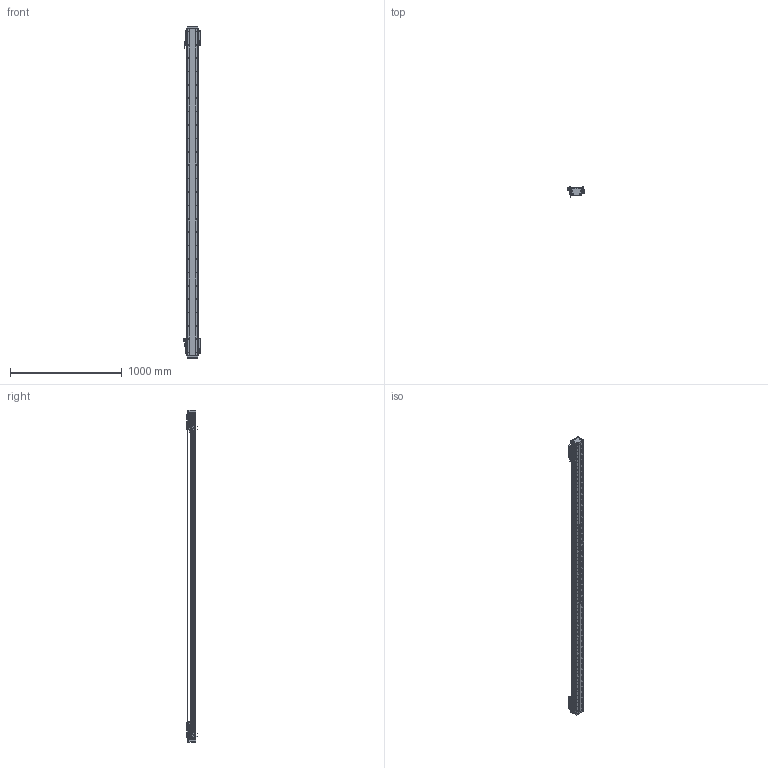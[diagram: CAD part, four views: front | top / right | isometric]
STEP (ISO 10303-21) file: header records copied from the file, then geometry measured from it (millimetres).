
FILE_DESCRIPTION (( 'STEP AP203' ), '1' );
FILE_NAME ('DA-B95-2-B15-T2600-C010-0.2 直线电机.STEP', '2023-05-06T06:41:14', ( '微软用户' ), ( '微软中国' ), 'SwSTEP 2.0', 'SolidWorks 2019', '' );
FILE_SCHEMA (( 'CONFIG_CONTROL_DESIGN' ));
Length unit declared in the file: millimetre
Products named in the file (34): 复件 66245-BU95-HT-V-01 滑动台板^66245-BU95-V-00 一体化滑动台板; PM-T45 光电开关^DA-A95-B15-T-C010-0.2-N 直线电机; 复件 DA95-HK-GT-00 滑块钢轨^66245-BU95-V-00 一体化滑动台板; LMDK-2-R001-V5-L02-C1-F00，0.2M 读数头^DA-A95-B15-T-C010-0.2-N 直线电机_DMA-010-0.2; DA-A95-GYP-00 光电感应片^DA-A95-B15-T-C010-0.2-N 直线电机; 葩璃 DA95-B15-DP-A-00 菜えA^66245-BU95-V 幗紩賑怢; 复件 DA95-B15-YB-B-00 压板B^66245-BU95-V 滚珠滑台; 复件 DA95-B15 钢带盖板^DA-A95-B15-T-C010-0.2-N 直线电机; 66245-BU95-V 幗紩賑怢; 复件 纯铜油杯 6x6mm^66245-BU95-V 滚珠滑台; 复件 复件 18252-0001-002-00 钢带垫块^DA-A95-B15-T-C010-0.2-N 直线电机; 复件 DA95-DB-00  挡板^66245-BU95-V 滚珠滑台; 葩璃 PM-Y45^DA-A95-B15-T-C010-0.2-N 眻盄萇儂; IU-BU95-L 菁釱絳寢; 复件 DKW-GYP-ZJ-00 中间光电感应片^DA-A95-B15-T-C010-0.2-N 直线电机; 葩璃 DA95-B15-DP--B-00 菜えB^66245-BU95-V 幗紩賑怢; 葩璃 BKM015-W060-C1-TP-DA-0.2^DA-A95-B15-T-C010-0.2-N 眻盄萇儂; B15 XD-U-02L ｴﾅﾕ､ｳﾟ^DA-A95-B15-T-C010-0.2-N ﾖｱﾏﾟｵ扈銈XD-U-02L; 葩璃 DA95-GT-T-00^IU-BU95-L 菁釱絳寢_DA95; 葩璃 BKMA01-W060-TRL^DA-A95-B15-T-C010-0.2-N 眻盄萇儂; DA-B95-2-B15-T2600-C010-0.2 眻盄萇儂; 复件 DA95-DK-00 挡块^66245-BU95-V 滚珠滑台; 复件 DA95-B15-YB-A-00 压板A^66245-BU95-V 滚珠滑台; 66245-BU95-V-00 珨极趙賑雄怢啣; IU-BU95-L-00 菁釱_L2940; 复件 六角薄螺母 M3^DA-A95-B15-T-C010-0.2-N 直线电机_GB_FASTENER_NUT_STNAB M3-C; DA95-HXJ-00 缓冲橡胶^DA-A95-B15-T-C010-0.2-N 直线电机; 复件 复件 18252-0001-003-00 钢带拉块^DA-A95-B15-T-C010-0.2-N 直线电机; 复件 DKW-KGZ-ZJ-00 中间光电开关支架^DA-A95-B15-T-C010-0.2-N 直线电机; 复件 复件 18252-0001-004-00 钢带端盖^DA-A95-B15-T-C010-0.2-N 直线电机; 复件 DA95-MFP-01 密封片^66245-BU95-V 滚珠滑台; 复件 DKW-HXJ-JY-00 缓冲橡胶^DA-A95-B15-T-C010-0.2-N 直线电机
Assembly tree (80 placements, depth 4):
  DA-B95-2-B15-T2600-C010-0.2 眻盄萇儂
    IU-BU95-L 菁釱絳寢
      IU-BU95-L-00 菁釱_L2940
      葩璃 DA95-GT-T-00^IU-BU95-L 菁釱絳寢_DA95  x2
    66245-BU95-V 幗紩賑怢
      66245-BU95-V-00 珨极趙賑雄怢啣
        复件 66245-BU95-HT-V-01 滑动台板^66245-BU95-V-00 一体化滑动台板
        复件 DA95-HK-GT-00 滑块钢轨^66245-BU95-V-00 一体化滑动台板  x2
      葩璃 DA95-B15-DP-A-00 菜えA^66245-BU95-V 幗紩賑怢
      复件 DA95-B15-YB-A-00 压板A^66245-BU95-V 滚珠滑台
      复件 DA95-B15-YB-B-00 压板B^66245-BU95-V 滚珠滑台
      复件 DA95-DB-00  挡板^66245-BU95-V 滚珠滑台  x4
      复件 DA95-DK-00 挡块^66245-BU95-V 滚珠滑台  x2
      复件 DA95-MFP-01 密封片^66245-BU95-V 滚珠滑台  x4
      复件 纯铜油杯 6x6mm^66245-BU95-V 滚珠滑台  x2
      葩璃 DA95-B15-DP--B-00 菜えB^66245-BU95-V 幗紩賑怢
    66245-BU95-V 幗紩賑怢
      66245-BU95-V-00 珨极趙賑雄怢啣
        复件 66245-BU95-HT-V-01 滑动台板^66245-BU95-V-00 一体化滑动台板
        复件 DA95-HK-GT-00 滑块钢轨^66245-BU95-V-00 一体化滑动台板  x2
      葩璃 DA95-B15-DP-A-00 菜えA^66245-BU95-V 幗紩賑怢
      复件 DA95-B15-YB-A-00 压板A^66245-BU95-V 滚珠滑台
      复件 DA95-B15-YB-B-00 压板B^66245-BU95-V 滚珠滑台
      复件 DA95-DB-00  挡板^66245-BU95-V 滚珠滑台  x4
      复件 DA95-DK-00 挡块^66245-BU95-V 滚珠滑台  x2
      复件 DA95-MFP-01 密封片^66245-BU95-V 滚珠滑台  x4
      复件 纯铜油杯 6x6mm^66245-BU95-V 滚珠滑台  x2
      葩璃 DA95-B15-DP--B-00 菜えB^66245-BU95-V 幗紩賑怢
    DA-A95-GYP-00 光电感应片^DA-A95-B15-T-C010-0.2-N 直线电机  x2
    LMDK-2-R001-V5-L02-C1-F00，0.2M 读数头^DA-A95-B15-T-C010-0.2-N 直线电机_DMA-010-0.2  x2
    复件 DKW-KGZ-ZJ-00 中间光电开关支架^DA-A95-B15-T-C010-0.2-N 直线电机
    葩璃 PM-Y45^DA-A95-B15-T-C010-0.2-N 眻盄萇儂
    复件 DKW-GYP-ZJ-00 中间光电感应片^DA-A95-B15-T-C010-0.2-N 直线电机
    葩璃 BKM015-W060-C1-TP-DA-0.2^DA-A95-B15-T-C010-0.2-N 眻盄萇儂  x2
    复件 DKW-HXJ-JY-00 缓冲橡胶^DA-A95-B15-T-C010-0.2-N 直线电机  x2
    PM-T45 光电开关^DA-A95-B15-T-C010-0.2-N 直线电机  x4
    B15 XD-U-02L ｴﾅﾕ､ｳﾟ^DA-A95-B15-T-C010-0.2-N ﾖｱﾏﾟｵ扈銈XD-U-02L
    复件 复件 18252-0001-003-00 钢带拉块^DA-A95-B15-T-C010-0.2-N 直线电机  x2
    复件 复件 18252-0001-002-00 钢带垫块^DA-A95-B15-T-C010-0.2-N 直线电机  x2
    复件 复件 18252-0001-004-00 钢带端盖^DA-A95-B15-T-C010-0.2-N 直线电机  x2
    复件 DA95-B15 钢带盖板^DA-A95-B15-T-C010-0.2-N 直线电机
    DA95-HXJ-00 缓冲橡胶^DA-A95-B15-T-C010-0.2-N 直线电机  x4
    葩璃 BKMA01-W060-TRL^DA-A95-B15-T-C010-0.2-N 眻盄萇儂
    复件 六角薄螺母 M3^DA-A95-B15-T-C010-0.2-N 直线电机_GB_FASTENER_NUT_STNAB M3-C  x6
Bounding box: 145.4 x 90.2 x 2976 mm (x, y, z)
Volume: 9450655.1 mm3; surface area: 3148243.2 mm2
Topology: 75 solids, 93 shells, 4392 faces, 12532 edges, 7967 vertices
Faces by surface type: cylinder 2301, plane 1559, cone 464, torus 64, sphere 4
Entity records: 110844 total; most frequent: CARTESIAN_POINT 29854, ORIENTED_EDGE 16422, DIRECTION 15704, EDGE_CURVE 8211, AXIS2_PLACEMENT_3D 5993, VERTEX_POINT 5369, VECTOR 3718, LINE 3718
